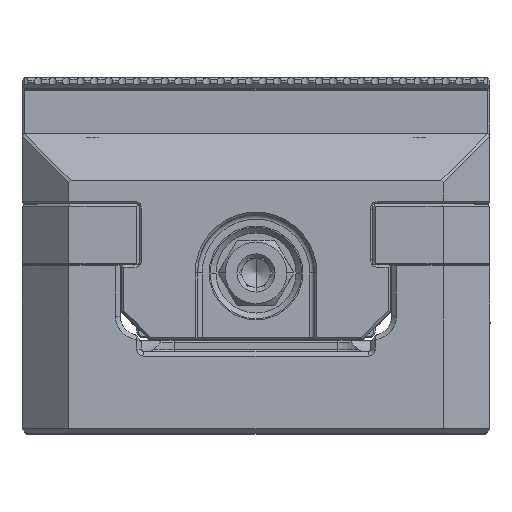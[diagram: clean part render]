
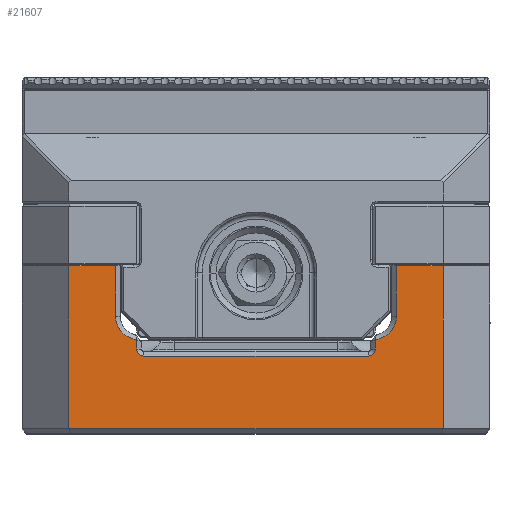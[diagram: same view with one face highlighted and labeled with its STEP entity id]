
A CAD part, top view. The second image highlights one B-rep face of the part: STEP entity #21607.
In plain terms, the highlighted planar face has unit normal (0, 0, 1).
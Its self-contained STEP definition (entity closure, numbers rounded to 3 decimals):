
#2180=CARTESIAN_POINT('',(-25.,29.,75.));
#2181=DIRECTION('',(0.,0.,1.));
#2182=DIRECTION('',(-1.,0.,0.));
#2183=AXIS2_PLACEMENT_3D('',#2180,#2181,#2182);
#2185=DIRECTION('',(0.,-1.,0.));
#2186=VECTOR('',#2185,2.025);
#2187=CARTESIAN_POINT('',(-25.5,24.025,75.));
#2188=LINE('',#2187,#2186);
#2189=CARTESIAN_POINT('',(-24.,22.,75.));
#2190=DIRECTION('',(0.,0.,1.));
#2191=DIRECTION('',(-1.,0.,0.));
#2192=AXIS2_PLACEMENT_3D('',#2189,#2190,#2191);
#2194=DIRECTION('',(1.,0.,0.));
#2195=VECTOR('',#2194,48.);
#2196=CARTESIAN_POINT('',(-24.,20.5,75.));
#2197=LINE('',#2196,#2195);
#2198=CARTESIAN_POINT('',(24.,22.,75.));
#2199=DIRECTION('',(0.,0.,1.));
#2200=DIRECTION('',(0.,-1.,0.));
#2201=AXIS2_PLACEMENT_3D('',#2198,#2199,#2200);
#2203=DIRECTION('',(0.,1.,0.));
#2204=VECTOR('',#2203,2.025);
#2205=CARTESIAN_POINT('',(25.5,22.,75.));
#2206=LINE('',#2205,#2204);
#2207=CARTESIAN_POINT('',(25.,29.,75.));
#2208=DIRECTION('',(0.,0.,1.));
#2209=DIRECTION('',(0.1,-0.995,0.));
#2210=AXIS2_PLACEMENT_3D('',#2207,#2208,#2209);
#2212=DIRECTION('',(1.,0.,0.));
#2213=VECTOR('',#2212,10.);
#2214=CARTESIAN_POINT('',(30.,39.8,75.));
#2215=LINE('',#2214,#2213);
#2216=DIRECTION('',(0.,-1.,0.));
#2217=VECTOR('',#2216,34.8);
#2218=CARTESIAN_POINT('',(40.,39.8,75.));
#2219=LINE('',#2218,#2217);
#2220=DIRECTION('',(-1.,0.,0.));
#2221=VECTOR('',#2220,10.);
#2222=CARTESIAN_POINT('',(-30.,39.8,75.));
#2223=LINE('',#2222,#2221);
#3914=DIRECTION('',(0.,-1.,0.));
#3915=VECTOR('',#3914,34.8);
#3916=CARTESIAN_POINT('',(-40.,39.8,75.));
#3917=LINE('',#3916,#3915);
#3926=DIRECTION('',(1.,0.,0.));
#3927=VECTOR('',#3926,80.);
#3928=CARTESIAN_POINT('',(-40.,5.,75.));
#3929=LINE('',#3928,#3927);
#4232=DIRECTION('',(0.,-1.,0.));
#4233=VECTOR('',#4232,10.8);
#4234=CARTESIAN_POINT('',(30.,39.8,75.));
#4235=LINE('',#4234,#4233);
#4335=DIRECTION('',(0.,1.,0.));
#4336=VECTOR('',#4335,10.8);
#4337=CARTESIAN_POINT('',(-30.,29.,75.));
#4338=LINE('',#4337,#4336);
#19361=CARTESIAN_POINT('',(-30.,39.8,75.));
#19362=VERTEX_POINT('',#19361);
#19363=CARTESIAN_POINT('',(-30.,29.,
75.));
#19364=VERTEX_POINT('',#19363);
#19381=CARTESIAN_POINT('',(-40.,39.8,75.));
#19382=VERTEX_POINT('',#19381);
#19383=CARTESIAN_POINT('',(-25.5,24.025,75.));
#19384=VERTEX_POINT('',#19383);
#19385=CARTESIAN_POINT('',(-25.5,22.,
75.));
#19386=VERTEX_POINT('',#19385);
#19387=CARTESIAN_POINT('',(-24.,20.5,75.));
#19388=VERTEX_POINT('',#19387);
#19389=CARTESIAN_POINT('',(24.,20.5,75.));
#19390=VERTEX_POINT('',#19389);
#19391=CARTESIAN_POINT('',(25.5,22.,75.));
#19392=VERTEX_POINT('',#19391);
#19393=CARTESIAN_POINT('',(25.5,24.025,75.));
#19394=VERTEX_POINT('',#19393);
#19395=CARTESIAN_POINT('',(30.,29.,75.));
#19396=VERTEX_POINT('',#19395);
#19397=CARTESIAN_POINT('',(30.,39.8,75.));
#19398=VERTEX_POINT('',#19397);
#19399=CARTESIAN_POINT('',(40.,39.8,75.));
#19400=VERTEX_POINT('',#19399);
#19401=CARTESIAN_POINT('',(40.,5.,75.));
#19402=VERTEX_POINT('',#19401);
#19403=CARTESIAN_POINT('',(-40.,5.,75.));
#19404=VERTEX_POINT('',#19403);
#21574=CARTESIAN_POINT('',(-50.,0.,75.));
#21575=DIRECTION('',(0.,0.,-1.));
#21576=DIRECTION('',(1.,0.,0.));
#21577=AXIS2_PLACEMENT_3D('',#21574,#21575,#21576);
#21578=PLANE('',#21577);
#21580=ORIENTED_EDGE('',*,*,#21579,.F.);
#21582=ORIENTED_EDGE('',*,*,#21581,.F.);
#21584=ORIENTED_EDGE('',*,*,#21583,.T.);
#21586=ORIENTED_EDGE('',*,*,#21585,.T.);
#21588=ORIENTED_EDGE('',*,*,#21587,.T.);
#21590=ORIENTED_EDGE('',*,*,#21589,.T.);
#21592=ORIENTED_EDGE('',*,*,#21591,.T.);
#21594=ORIENTED_EDGE('',*,*,#21593,.T.);
#21596=ORIENTED_EDGE('',*,*,#21595,.T.);
#21598=ORIENTED_EDGE('',*,*,#21597,.F.);
#21599=ORIENTED_EDGE('',*,*,#21568,.T.);
#21600=ORIENTED_EDGE('',*,*,#21101,.T.);
#21602=ORIENTED_EDGE('',*,*,#21601,.F.);
#21604=ORIENTED_EDGE('',*,*,#21603,.F.);
#21605=EDGE_LOOP('',(#21580,#21582,#21584,#21586,#21588,#21590,#21592,#21594,
#21596,#21598,#21599,#21600,#21602,#21604));
#21606=FACE_OUTER_BOUND('',#21605,.F.);
#21607=ADVANCED_FACE('',(#21606),#21578,.F.);
#2184=CIRCLE('',#2183,5.);
#2193=CIRCLE('',#2192,1.5);
#2202=CIRCLE('',#2201,1.5);
#2211=CIRCLE('',#2210,5.);
#21101=EDGE_CURVE('',#19400,#19402,#2219,.T.);
#21568=EDGE_CURVE('',#19398,#19400,#2215,.T.);
#21579=EDGE_CURVE('',#19362,#19382,#2223,.T.);
#21581=EDGE_CURVE('',#19364,#19362,#4338,.T.);
#21583=EDGE_CURVE('',#19364,#19384,#2184,.T.);
#21585=EDGE_CURVE('',#19384,#19386,#2188,.T.);
#21587=EDGE_CURVE('',#19386,#19388,#2193,.T.);
#21589=EDGE_CURVE('',#19388,#19390,#2197,.T.);
#21591=EDGE_CURVE('',#19390,#19392,#2202,.T.);
#21593=EDGE_CURVE('',#19392,#19394,#2206,.T.);
#21595=EDGE_CURVE('',#19394,#19396,#2211,.T.);
#21597=EDGE_CURVE('',#19398,#19396,#4235,.T.);
#21601=EDGE_CURVE('',#19404,#19402,#3929,.T.);
#21603=EDGE_CURVE('',#19382,#19404,#3917,.T.);
